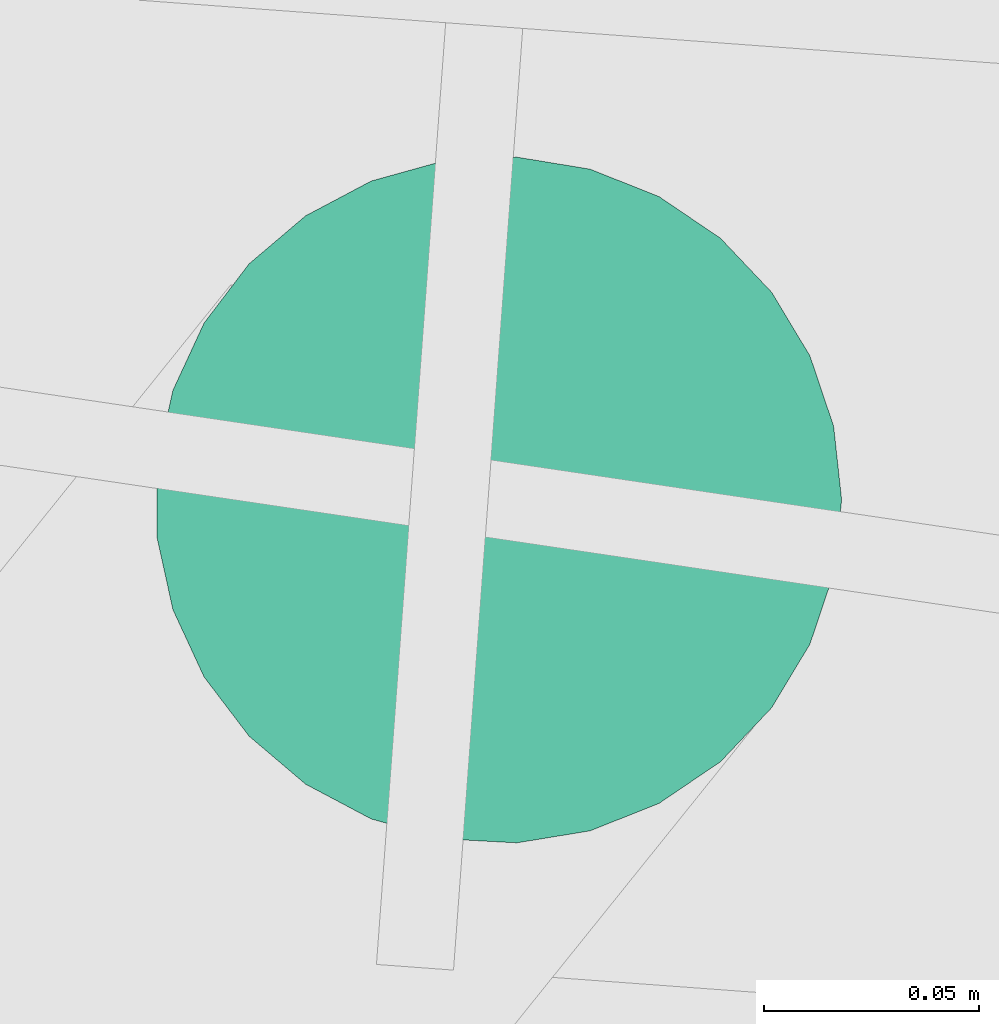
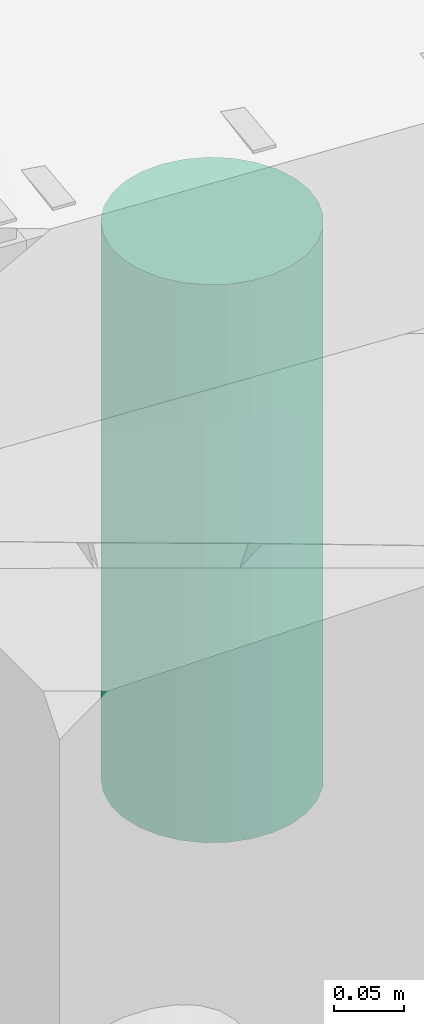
# Not in any storey, part 12 of 33: 1 pipe segment.
"""IFC4 model written with IfcOpenShell, lengths in metres."""

import ifcopenshell
import ifcopenshell.guid

model = None  # the IFC model being written
_history = None  # IfcOwnerHistory: only IFC2X3 demands one
_inside = {}  # id of a spatial element -> (the spatial element, [elements in it])
_under = {}  # id of a project, library or spatial element -> (it, [spatial elements below it])
_declared = {}  # id of a project -> (the project, [libraries it declares])
_typed = {}  # id of a type object -> (the type object, [elements of that type])
_made_of = {}  # id of a material, layer set ... -> (it, [elements and type objects made of it])


def new_model(schema):
    """Start an empty IFC model of exactly this schema.

    Asked for "IFC4X3", IfcOpenShell would pick the latest addendum, in which some entities
    have other attributes; the version numbers below select the first issue.
    IFC2X3 requires an IfcOwnerHistory on every rooted entity: one is made here for all.
    """
    global model, _history
    if schema == "IFC4X3":
        model = ifcopenshell.file(schema_version=(4, 3, 0, 0))
    else:
        model = ifcopenshell.file(schema=schema)
    _inside.clear()
    _under.clear()
    _declared.clear()
    _typed.clear()
    _made_of.clear()
    _history = None
    if model.schema == "IFC2X3":
        org = make("IfcOrganization", Name="unknown")
        user = make(
            "IfcPersonAndOrganization",
            ThePerson=make("IfcPerson", FamilyName="unknown"),
            TheOrganization=org,
        )
        app = make(
            "IfcApplication",
            ApplicationDeveloper=org,
            Version="unknown",
            ApplicationFullName="unknown",
            ApplicationIdentifier="unknown",
        )
        _history = make(
            "IfcOwnerHistory",
            OwningUser=user,
            OwningApplication=app,
            ChangeAction="ADDED",
            CreationDate=0,
        )
    return model


def make(cls, **values):
    """One entity of the class cls with the attributes given. An attribute that is None is left unset."""
    return model.create_entity(
        cls, **{name: value for name, value in values.items() if value is not None}
    )


def rooted(cls, **values):
    """An entity with a GlobalId (a new one), such as an element, a storey or a relation."""
    return make(cls, GlobalId=ifcopenshell.guid.new(), OwnerHistory=_history, **values)


def si_unit(unit_type, name, prefix=None):
    """IfcSIUnit, for example si_unit("LENGTHUNIT", "METRE", prefix="MILLI")."""
    return make("IfcSIUnit", UnitType=unit_type, Prefix=prefix, Name=name)


def assignment(units):
    """IfcUnitAssignment: the units of a project."""
    return None if units is None else make("IfcUnitAssignment", Units=units)


def point(xyz):
    """IfcCartesianPoint."""
    return None if xyz is None else make("IfcCartesianPoint", Coordinates=xyz)


def direction(xyz):
    """IfcDirection."""
    return None if xyz is None else make("IfcDirection", DirectionRatios=xyz)


def frame(location, z_axis=None, x_axis=None):
    """IfcAxis2Placement3D, a coordinate frame: its origin and axes. An axis left out is left unset."""
    return make(
        "IfcAxis2Placement3D",
        Location=point(location),
        Axis=direction(z_axis),
        RefDirection=direction(x_axis),
    )


def origin_with_axes():
    """The frame at (0, 0, 0) with the z axis (0, 0, 1) and the x axis (1, 0, 0) written out."""
    return frame((0.0, 0.0, 0.0), z_axis=(0.0, 0.0, 1.0), x_axis=(1.0, 0.0, 0.0))


def place(relative_to, where):
    """IfcLocalPlacement: puts the frame where relative to a parent placement (None: the world)."""
    return make(
        "IfcLocalPlacement", PlacementRelTo=relative_to, RelativePlacement=where
    )


def context(
    kind, dimensions, precision=None, world=None, true_north=None, identifier=None
):
    """IfcGeometricRepresentationContext, for example the 3D "Model" context."""
    return make(
        "IfcGeometricRepresentationContext",
        ContextIdentifier=identifier,
        ContextType=kind,
        CoordinateSpaceDimension=dimensions,
        Precision=precision,
        WorldCoordinateSystem=world,
        TrueNorth=true_north,
    )


def subcontext(parent, identifier, kind, view, scale=None):
    """IfcGeometricRepresentationSubContext, for example "Body" below "Model"."""
    return make(
        "IfcGeometricRepresentationSubContext",
        ContextIdentifier=identifier,
        ContextType=kind,
        ParentContext=parent,
        TargetScale=scale,
        TargetView=view,
    )


def project(units=None, contexts=None):
    """IfcProject with its units and contexts."""
    return rooted(
        "IfcProject",
        Name="project",
        RepresentationContexts=contexts,
        UnitsInContext=assignment(units),
    )


def spatial(cls, under=None, at=None, **own):
    """A site, building, storey or space (cls), placed at a placement, below another one or the project."""
    s = rooted(cls, ObjectPlacement=at, **own)
    if under is not None:
        _under.setdefault(under.id(), (under, []))[1].append(s)
    return s


def profile(cls, at=None, kind="AREA", **sizes):
    """A parametric profile (cls). Its sizes go by their IFC names, for example OverallWidth=200.0."""
    return make(cls, ProfileType=kind, Position=at, **sizes)


def circle(**sizes):
    """IfcCircleProfileDef."""
    return profile("IfcCircleProfileDef", **sizes)


def extrude(swept, where, along, depth):
    """IfcExtrudedAreaSolid: the profile swept, set in the frame where, extruded along a direction by depth."""
    return make(
        "IfcExtrudedAreaSolid",
        SweptArea=swept,
        Position=where,
        ExtrudedDirection=direction(along),
        Depth=depth,
    )


def shape(context_of_items, identifier, shape_type, items):
    """IfcShapeRepresentation: the items that make up one representation, for example the "Body"."""
    return make(
        "IfcShapeRepresentation",
        ContextOfItems=context_of_items,
        RepresentationIdentifier=identifier,
        RepresentationType=shape_type,
        Items=items,
    )


def material(Name=None, Category=None):
    """IfcMaterial."""
    return make("IfcMaterial", Name=Name, Category=Category)


def material_profile(
    of_material, cross_section, Name=None, Category=None, Priority=None
):
    """IfcMaterialProfile: a cross section and its material."""
    return make(
        "IfcMaterialProfile",
        Name=Name,
        Material=of_material,
        Profile=cross_section,
        Priority=Priority,
        Category=Category,
    )


def profile_set(profiles, Name=None, composite=None):
    """IfcMaterialProfileSet."""
    return make(
        "IfcMaterialProfileSet",
        Name=Name,
        MaterialProfiles=profiles,
        CompositeProfile=composite,
    )


def profile_usage(for_profile_set, cardinal=None, extent=None):
    """IfcMaterialProfileSetUsage: how a profile set lies along its element."""
    return make(
        "IfcMaterialProfileSetUsage",
        ForProfileSet=for_profile_set,
        CardinalPoint=cardinal,
        ReferenceExtent=extent,
    )


def made_of(thing, what):
    """Note that an element or type object is made of a material, layer set ...; save() writes the relation."""
    if what is not None:
        _made_of.setdefault(what.id(), (what, []))[1].append(thing)
    return thing


def type_object(cls, material=None, **own):
    """A type object (cls), such as IfcWallType, which elements share."""
    return made_of(rooted(cls, **own), material)


def element(
    cls,
    number,
    at=None,
    inside=None,
    cuts=None,
    type_object=None,
    material=None,
    context=None,
    identifier="Body",
    shape_type=None,
    held_by="IfcProductDefinitionShape",
    body=None,
    shapes=None,
    **own,
):
    """One element of the class cls, such as IfcWall. Its Tag is "e" and its number.

    at: its placement. inside: the storey or other place that contains it. cuts: it is an
    opening in that element (IfcRelVoidsElement). A single representation is given by context,
    identifier, shape_type and body (its items); several are given by shapes. held_by: the class
    of the entity that holds the representations. save() writes the other relations.
    """
    e = rooted(cls, Tag="e%d" % number, ObjectPlacement=at, **own)
    if body is not None:
        shapes = [shape(context, identifier, shape_type, body)]
    if shapes is not None:
        e.Representation = make(held_by, Representations=shapes)
    if inside is not None:
        _inside.setdefault(inside.id(), (inside, []))[1].append(e)
    if cuts is not None:
        rooted(
            "IfcRelVoidsElement", RelatingBuildingElement=cuts, RelatedOpeningElement=e
        )
    if type_object is not None:
        _typed.setdefault(type_object.id(), (type_object, []))[1].append(e)
    return made_of(e, material)


def aggregate(whole, parts):
    """IfcRelAggregates: a whole, such as a stair, and the parts it consists of."""
    return rooted("IfcRelAggregates", RelatingObject=whole, RelatedObjects=parts)


def save(model, path):
    """Write the relations noted so far, then the file.

    IfcRelAggregates (storeys below a building ...), IfcRelContainedInSpatialStructure (elements
    in a storey), IfcRelDefinesByType, IfcRelAssociatesMaterial and IfcRelDeclares: one each for
    every whole, place, type object, material and project.
    """
    for whole, parts in _under.values():
        aggregate(whole, parts)
    for where, things in _inside.values():
        rooted(
            "IfcRelContainedInSpatialStructure",
            RelatedElements=things,
            RelatingStructure=where,
        )
    for kind, things in _typed.values():
        rooted("IfcRelDefinesByType", RelatedObjects=things, RelatingType=kind)
    for what, things in _made_of.values():
        rooted("IfcRelAssociatesMaterial", RelatedObjects=things, RelatingMaterial=what)
    for by, libraries in _declared.values():
        rooted("IfcRelDeclares", RelatingContext=by, RelatedDefinitions=libraries)
    model.write(path)


model = new_model("IFC4")

# Units and contexts
model_context = context("Model", 3, precision=1e-05, world=origin_with_axes(), true_north=direction((0.0, 1.0)))
body_context = subcontext(model_context, "Body", "Model", "MODEL_VIEW")
ifc_project = project(units=[si_unit("LENGTHUNIT", "METRE"), si_unit("AREAUNIT", "SQUARE_METRE"), si_unit("VOLUMEUNIT", "CUBIC_METRE")], contexts=[model_context])

# Site
site_placement = place(None, origin_with_axes())
site = spatial("IfcSite", under=ifc_project, at=site_placement, Name="Lares · Rua das Mercês · artigo 4771")

# Pipe segment
ifc_material = material(Name="Caleiras · betão", Category="concrete")
ifc_material_profile = material_profile(ifc_material, circle(Radius=0.08))
ifc_profile_set = profile_set([ifc_material_profile], Name="D0.16")
ifc_profile_usage = profile_usage(ifc_profile_set)
pipe_segment_type = type_object("IfcPipeSegmentType", Name="D0.16 / drain", PredefinedType="NOTDEFINED", material=ifc_profile_set)
pipe_segment_placement = place(site_placement, frame((47.8613163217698, 3.24236823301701, 14.3751428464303), z_axis=(0.0, 0.0, -1.0), x_axis=(1.0, -1.03767253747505e-17, 0.0)))
element("IfcPipeSegment", 1, at=pipe_segment_placement, inside=site, type_object=pipe_segment_type, material=ifc_profile_usage, Name="Acesso · queda pluvial até coletor", context=body_context, shape_type="SweptSolid", body=[
    extrude(circle(Radius=0.08), origin_with_axes(), (0.0, 0.0, 1.0), 0.489128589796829),
])

save(model, "model.ifc")
